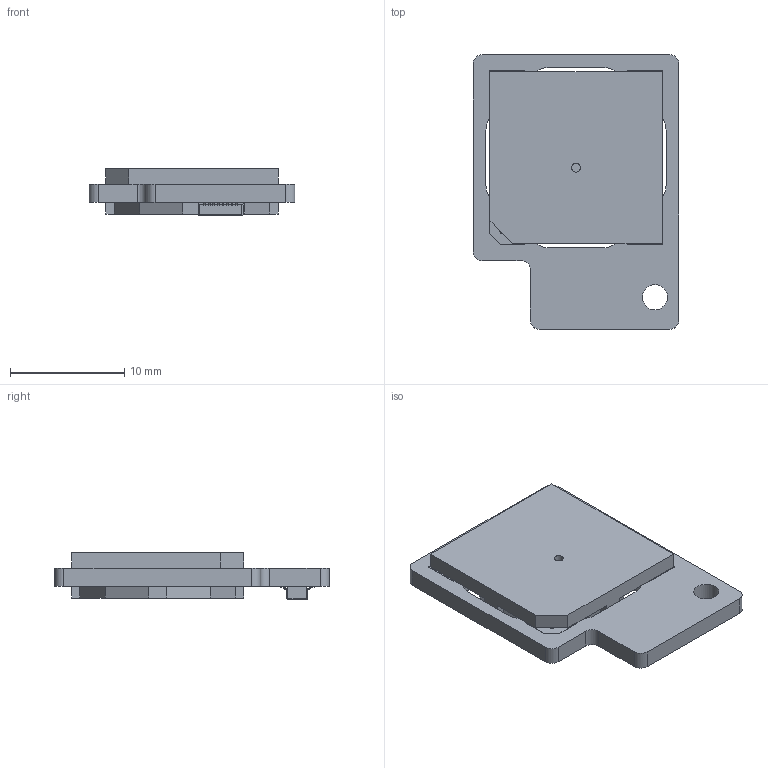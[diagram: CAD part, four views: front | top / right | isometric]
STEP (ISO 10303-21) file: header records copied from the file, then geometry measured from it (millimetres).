
FILE_DESCRIPTION (( 'STEP AP214' ), '1' );
FILE_NAME ('895-100.STEP', '2026-08-14T00:19:04', ( '' ), ( '' ), 'SwSTEP 2.0', 'SolidWorks 2020', '' );
FILE_SCHEMA (( 'AUTOMOTIVE_DESIGN' ));
Length unit declared in the file: millimetre
Products named in the file (5): Bare sensor CO 1 channel; DF40C-12DP; DGS415 base board; DGS415 base board with connector; 895-100
Assembly tree (4 placements, depth 3):
  895-100
    DGS415 base board with connector
      DGS415 base board
      DF40C-12DP
    Bare sensor CO 1 channel
Bounding box: 18 x 24 x 4.08 mm (x, y, z)
Volume: 984.8 mm3; surface area: 1364.5 mm2
Topology: 3 solids, 3 shells, 354 faces, 1010 edges, 672 vertices
Faces by surface type: plane 244, cylinder 110
Full cylindrical faces by diameter (mm): 0.495 x11, 0.496 x1, 0.66 x4, 0.8 x1, 2.2 x1
Entity records: 12636 total; most frequent: CARTESIAN_POINT 2186, ORIENTED_EDGE 1984, DIRECTION 1920, EDGE_CURVE 992, VECTOR 772, LINE 772, VERTEX_POINT 672, AXIS2_PLACEMENT_3D 574
